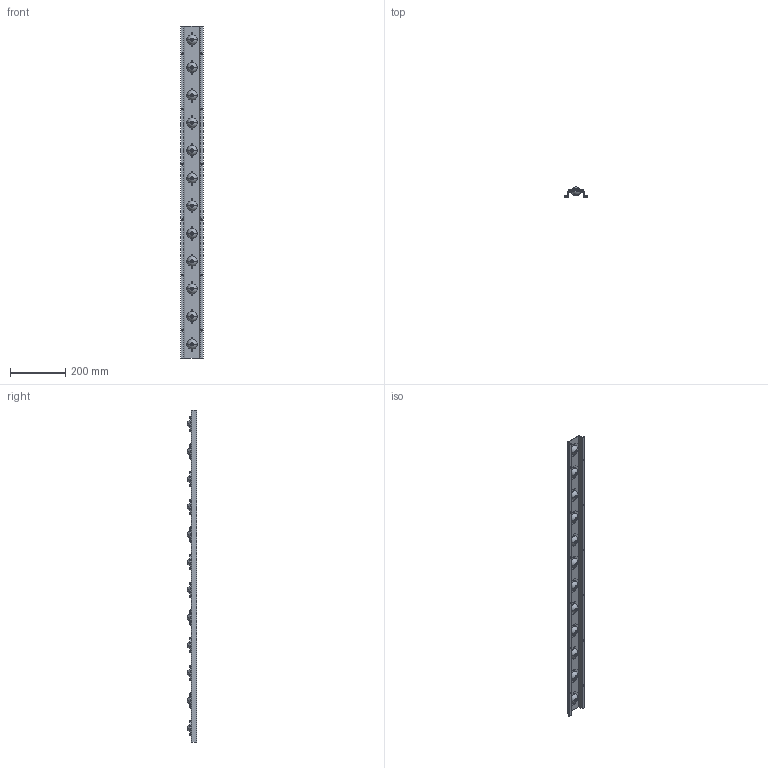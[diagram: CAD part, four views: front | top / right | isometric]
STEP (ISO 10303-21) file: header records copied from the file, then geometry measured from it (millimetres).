
FILE_DESCRIPTION (( 'STEP AP203' ), '1' );
FILE_NAME ('PVU-12.STEP', '2021-10-08T04:06:04', ( '' ), ( '' ), 'SwSTEP 2.0', 'SolidWorks 2013', '' );
FILE_SCHEMA (( 'CONFIG_CONTROL_DESIGN' ));
Length unit declared in the file: millimetre
Products named in the file (1): PVU-12
Bounding box: 80 x 34.6 x 1200 mm (x, y, z)
Volume: 533015.3 mm3; surface area: 308634 mm2
Topology: 1 solids, 3 shells, 1314 faces, 3168 edges, 2028 vertices
Faces by surface type: plane 606, cylinder 492, torus 168, cone 24, sphere 24
Entity records: 41699 total; most frequent: CARTESIAN_POINT 10745, DIRECTION 6566, ORIENTED_EDGE 6336, EDGE_CURVE 3168, AXIS2_PLACEMENT_3D 2611, VERTEX_POINT 2028, EDGE_LOOP 1510, LINE 1344
